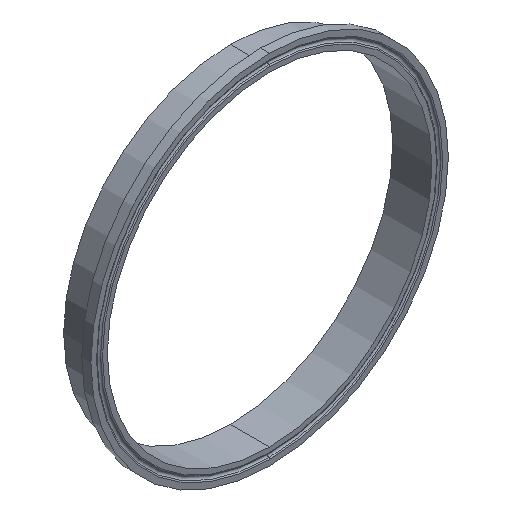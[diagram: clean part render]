
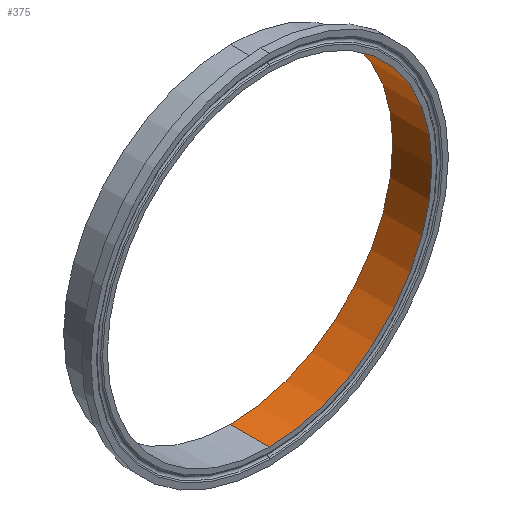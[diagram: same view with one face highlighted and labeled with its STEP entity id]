
A CAD part, isometric view. The second image highlights one B-rep face of the part: STEP entity #375.
In plain terms, the highlighted cylindrical face has radius 98.831 mm (diameter 197.663 mm), a partial arc.
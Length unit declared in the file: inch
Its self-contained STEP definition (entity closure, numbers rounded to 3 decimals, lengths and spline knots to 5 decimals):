
#2 = ORIENTED_EDGE ( 'NONE', *, *, #54, .F. ) ;
#3 = AXIS2_PLACEMENT_3D ( 'NONE', #484, #271, #30 ) ;
#30 = DIRECTION ( 'NONE',  ( 0., 0., -1. ) ) ;
#34 = DIRECTION ( 'NONE',  ( 0., -1., 0. ) ) ;
#38 = CARTESIAN_POINT ( 'NONE',  ( 0., 0., -3.891 ) ) ;
#42 = EDGE_CURVE ( 'NONE', #82, #297, #60, .T. ) ;
#43 = ORIENTED_EDGE ( 'NONE', *, *, #507, .T. ) ;
#51 = AXIS2_PLACEMENT_3D ( 'NONE', #381, #126, #180 ) ;
#54 = EDGE_CURVE ( 'NONE', #443, #297, #362, .T. ) ;
#60 = CIRCLE ( 'NONE', #371, 3.891 ) ;
#82 = VERTEX_POINT ( 'NONE', #301 ) ;
#120 = CYLINDRICAL_SURFACE ( 'NONE', #3, 3.891 ) ;
#126 = DIRECTION ( 'NONE',  ( 0., -1., 0. ) ) ;
#138 = CIRCLE ( 'NONE', #51, 3.891 ) ;
#180 = DIRECTION ( 'NONE',  ( 0., 0., -1. ) ) ;
#225 = VECTOR ( 'NONE', #320, 39.37008 ) ;
#227 = CARTESIAN_POINT ( 'NONE',  ( 0., 0., 3.891 ) ) ;
#243 = VECTOR ( 'NONE', #369, 39.37008 ) ;
#271 = DIRECTION ( 'NONE',  ( 0., -1., 0. ) ) ;
#275 = CARTESIAN_POINT ( 'NONE',  ( 0., 0., 0. ) ) ;
#281 = VERTEX_POINT ( 'NONE', #294 ) ;
#294 = CARTESIAN_POINT ( 'NONE',  ( 0., 0.938, -3.891 ) ) ;
#297 = VERTEX_POINT ( 'NONE', #313 ) ;
#301 = CARTESIAN_POINT ( 'NONE',  ( 0., 0., -3.891 ) ) ;
#313 = CARTESIAN_POINT ( 'NONE',  ( 0., 0., 3.891 ) ) ;
#315 = DIRECTION ( 'NONE',  ( 0., 0., -1. ) ) ;
#319 = ORIENTED_EDGE ( 'NONE', *, *, #359, .F. ) ;
#320 = DIRECTION ( 'NONE',  ( 0., -1., 0. ) ) ;
#340 = LINE ( 'NONE', #38, #225 ) ;
#359 = EDGE_CURVE ( 'NONE', #281, #443, #138, .T. ) ;
#362 = LINE ( 'NONE', #227, #243 ) ;
#369 = DIRECTION ( 'NONE',  ( 0., -1., 0. ) ) ;
#371 = AXIS2_PLACEMENT_3D ( 'NONE', #275, #34, #315 ) ;
#375 = ADVANCED_FACE ( 'NONE', ( #459 ), #120, .F. ) ;
#381 = CARTESIAN_POINT ( 'NONE',  ( 0., 0.938, 0. ) ) ;
#392 = CARTESIAN_POINT ( 'NONE',  ( 0., 0.938, 3.891 ) ) ;
#396 = EDGE_LOOP ( 'NONE', ( #2, #319, #43, #536 ) ) ;
#443 = VERTEX_POINT ( 'NONE', #392 ) ;
#459 = FACE_OUTER_BOUND ( 'NONE', #396, .T. ) ;
#484 = CARTESIAN_POINT ( 'NONE',  ( 0., 0., 0. ) ) ;
#507 = EDGE_CURVE ( 'NONE', #281, #82, #340, .T. ) ;
#536 = ORIENTED_EDGE ( 'NONE', *, *, #42, .T. ) ;
